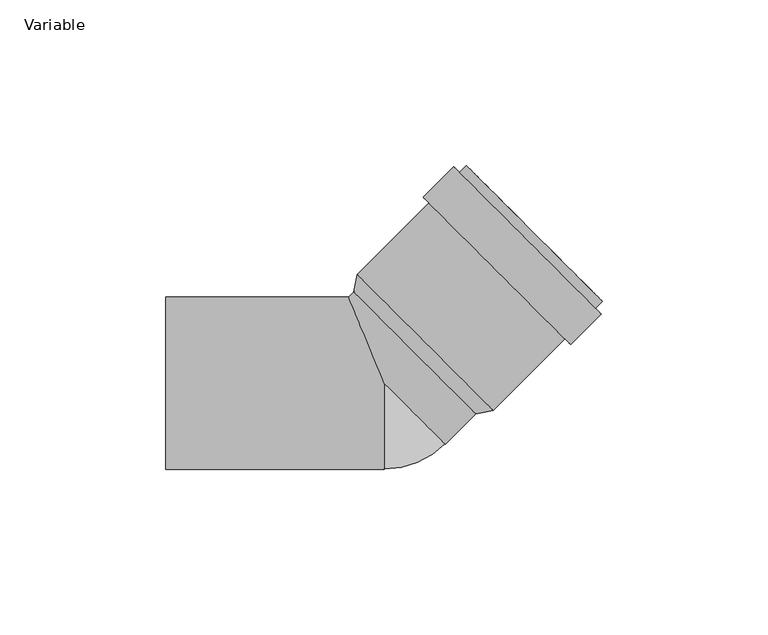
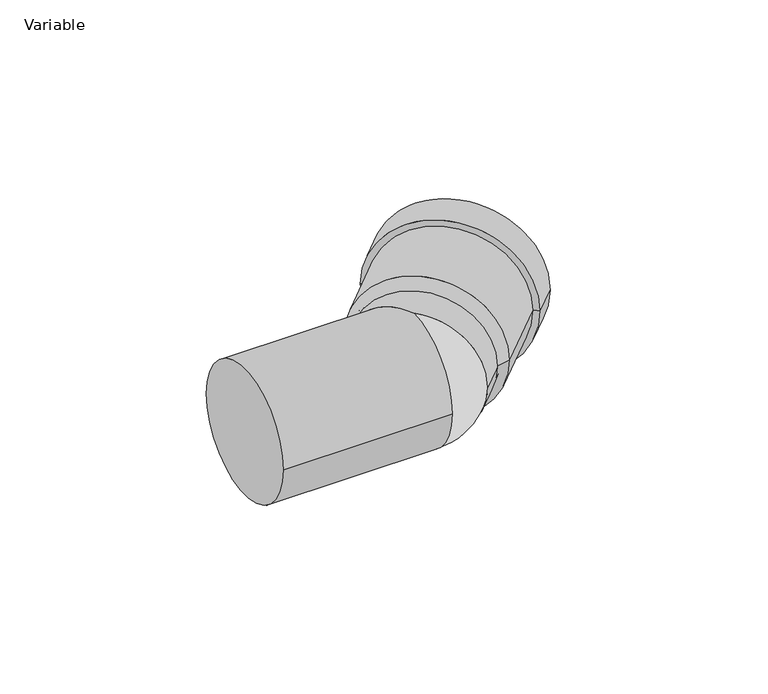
"""IFC4 building model written with IfcOpenShell, lengths in millimetres: pipe fitting geometry, AliaxisFR_Friaphon_ElbowMF_FR : Variable."""

from ifc_helpers import new_model, si_unit, point, frame, origin, place, context, project, spatial, polyline, circle_curve, ellipse_curve, trimmed, source, transform, mapped, element, save
from ifc_brep_helpers import plane_surface, cylinder_surface, revolved_surface, advanced_brep


def variable_70bd7cca(model_context):
    return source(origin(), model_context, "Body", "AdvancedBrep", [
        advanced_brep(
        [(65.7609307, 24.7487373, 0.0), (24.7487373, 65.7609307, 0.0), (26.8700577, 63.6396103, 0.0), (63.6396103, 26.8700577, 0.0), (56.2149891, 11.6672619, 0.0), (11.6672619, 56.2149891, 0.0), (20.85965, 65.4073773, 0.0), (65.4073773, 20.85965, 0.0), (54.4472222, 13.4350288, 0.0), (13.4350288, 54.4472222, 0.0), (32.8804653, -8.131728, 0.0), (-8.131728, 32.8804653, 0.0), (-9.1923882, 27.5771645, 0.0), (27.5771645, -9.1923882, 0.0), (63.6396103, 22.627417, 0.0), (22.627417, 63.6396103, 0.0)],
        [
            (0, 1, circle_curve(frame((45.254834, 45.254834, 0.0), z_axis=(0.707106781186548, 0.7071067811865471, 0.0), x_axis=(-0.7071067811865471, 0.707106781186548, 0.0)), 29.0)),
            (1, 2),
            (2, 3, circle_curve(frame((45.254834, 45.254834, 0.0), z_axis=(-0.707106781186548, -0.7071067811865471, 0.0), x_axis=(-0.7071067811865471, 0.707106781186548, 0.0)), 26.0)),
            (3, 0),
            (1, 0, circle_curve(frame((45.254834, 45.254834, 0.0), z_axis=(0.707106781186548, 0.7071067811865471, 0.0), x_axis=(-0.7071067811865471, 0.707106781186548, 0.0)), 29.0)),
            (3, 2, circle_curve(frame((45.254834, 45.254834, 0.0), z_axis=(-0.707106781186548, -0.7071067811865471, 0.0), x_axis=(-0.7071067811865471, 0.707106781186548, 0.0)), 26.0)),
            (4, 5, circle_curve(frame((33.9411255, 33.9411255, 0.0), z_axis=(0.707106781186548, 0.7071067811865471, 0.0), x_axis=(-0.7071067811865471, 0.707106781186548, 0.0)), 31.5)),
            (5, 6),
            (6, 7, circle_curve(frame((43.1335137, 43.1335137, 0.0), z_axis=(-0.707106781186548, -0.7071067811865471, 0.0), x_axis=(-0.7071067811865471, 0.707106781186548, 0.0)), 31.5)),
            (7, 4),
            (5, 4, circle_curve(frame((33.9411255, 33.9411255, 0.0), z_axis=(0.707106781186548, 0.7071067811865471, 0.0), x_axis=(-0.7071067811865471, 0.707106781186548, 0.0)), 31.5)),
            (7, 6, circle_curve(frame((43.1335137, 43.1335137, 0.0), z_axis=(-0.707106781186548, -0.7071067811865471, 0.0), x_axis=(-0.7071067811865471, 0.707106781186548, 0.0)), 31.5)),
            (8, 9, circle_curve(frame((33.9411255, 33.9411255, 0.0), z_axis=(0.707106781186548, 0.7071067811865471, 0.0), x_axis=(-0.7071067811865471, 0.707106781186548, 0.0)), 29.0)),
            (9, 5),
            (4, 8),
            (9, 8, circle_curve(frame((33.9411255, 33.9411255, 0.0), z_axis=(0.707106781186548, 0.7071067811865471, 0.0), x_axis=(-0.7071067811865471, 0.707106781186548, 0.0)), 29.0)),
            (10, 11, circle_curve(frame((12.3743687, 12.3743687, 0.0), z_axis=(0.707106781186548, 0.7071067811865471, 0.0), x_axis=(-0.7071067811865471, 0.707106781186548, 0.0)), 29.0)),
            (11, 9),
            (8, 10),
            (11, 10, circle_curve(frame((12.3743687, 12.3743687, 0.0), z_axis=(0.707106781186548, 0.7071067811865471, 0.0), x_axis=(-0.7071067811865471, 0.707106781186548, 0.0)), 29.0)),
            (2, 12),
            (12, 13, circle_curve(frame((9.1923882, 9.1923882, 0.0), z_axis=(-0.707106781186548, -0.7071067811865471, 0.0), x_axis=(-0.7071067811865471, 0.707106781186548, 0.0)), 26.0)),
            (13, 3),
            (13, 12, circle_curve(frame((9.1923882, 9.1923882, 0.0), z_axis=(-0.707106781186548, -0.7071067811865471, 0.0), x_axis=(-0.7071067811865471, 0.707106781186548, 0.0)), 26.0)),
            (12, 11),
            (10, 13),
            (14, 15, circle_curve(frame((43.1335137, 43.1335137, 0.0), z_axis=(0.707106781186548, 0.7071067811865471, 0.0), x_axis=(-0.7071067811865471, 0.707106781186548, 0.0)), 29.0)),
            (15, 1),
            (0, 14),
            (15, 14, circle_curve(frame((43.1335137, 43.1335137, 0.0), z_axis=(0.707106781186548, 0.7071067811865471, 0.0), x_axis=(-0.7071067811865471, 0.707106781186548, 0.0)), 29.0)),
            (6, 15),
            (14, 7),
        ],
        [
            plane_surface(frame((45.254834, 45.254834, 0.0), z_axis=(0.707106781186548, 0.7071067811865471, 0.0), x_axis=(-0.7071067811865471, 0.707106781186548, 0.0))),
            cylinder_surface(frame((9.1923882, 9.1923882, 0.0), z_axis=(-0.707106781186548, -0.7071067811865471, 0.0), x_axis=(-0.7071067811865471, 0.707106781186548, 0.0)), 31.5),
            plane_surface(frame((33.9411255, 33.9411255, 0.0), z_axis=(-0.707106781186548, -0.7071067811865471, 0.0), x_axis=(-0.7071067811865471, 0.707106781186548, 0.0))),
            cylinder_surface(frame((9.1923882, 9.1923882, 0.0), z_axis=(-0.707106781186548, -0.7071067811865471, 0.0), x_axis=(-0.7071067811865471, 0.707106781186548, 0.0)), 29.0),
            revolved_surface(polyline([(-9.192388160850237, 27.577164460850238, 0.0), (26.870057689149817, 63.639610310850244, 0.0)]), (9.1923882, 9.1923882, 0.0), (-0.707106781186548, -0.7071067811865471, 0.0)),
            revolved_surface(polyline([(-8.131728, 32.8804653, 0.0), (-9.1923882, 27.5771645, 0.0)]), (9.1923882, 9.1923882, 0.0), (-0.707106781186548, -0.7071067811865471, 0.0)),
            plane_surface(frame((43.1335137, 43.1335137, 0.0), z_axis=(0.707106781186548, 0.7071067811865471, 0.0), x_axis=(-0.7071067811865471, 0.707106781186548, 0.0))),
        ],
        [
            (0, [[1, 2, 3, 4]]),
            (0, [[5, -4, 6, -2]]),
            (1, [[7, 8, 9, 10]]),
            (1, [[11, -10, 12, -8]]),
            (2, [[13, 14, -7, 15]]),
            (2, [[16, -15, -11, -14]]),
            (3, [[17, 18, -13, 19]]),
            (3, [[20, -19, -16, -18]]),
            (4, [[-3, 21, 22, 23]]),
            (4, [[-6, -23, 24, -21]]),
            (5, [[-22, 25, -17, 26]]),
            (5, [[-24, -26, -20, -25]]),
            (3, [[27, 28, -1, 29]]),
            (3, [[30, -29, -5, -28]]),
            (6, [[-9, 31, -27, 32]]),
            (6, [[-12, -32, -30, -31]]),
        ],
    ),
        advanced_brep(
        [(-7.0710678, 29.6984848, 0.0), (29.6984848, -7.0710678, 0.0), (18.3847763, -18.3847763, 0.0), (-10.7695526, 26.0, 0.0), (0.0, 0.0, 26.0), (0.0, 0.0, -26.0), (-66.0, -26.0, 0.0), (-66.0, 26.0, 0.0), (0.0, -26.0, 0.0)],
        [
            (0, 1, circle_curve(frame((11.3137085, 11.3137085, 0.0), z_axis=(0.7071067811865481, 0.707106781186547, 0.0), x_axis=(-0.707106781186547, 0.7071067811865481, 0.0)), 26.0)),
            (1, 0, circle_curve(frame((11.3137085, 11.3137085, 0.0), z_axis=(0.7071067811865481, 0.707106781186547, 0.0), x_axis=(-0.707106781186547, 0.7071067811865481, 0.0)), 26.0)),
            (2, 1),
            (0, 3),
            (3, 4, ellipse_curve(frame((0.0, 0.0, 0.0), z_axis=(0.923879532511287, 0.38268343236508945, 0.0), x_axis=(0.38268343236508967, -0.923879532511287, 0.0)), 28.1421972, 26.0)),
            (4, 2, circle_curve(frame((0.0, 0.0, 0.0), z_axis=(0.7071067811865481, 0.707106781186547, 0.0), x_axis=(-0.707106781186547, 0.7071067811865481, 0.0)), 26.0)),
            (2, 5, circle_curve(frame((0.0, 0.0, 0.0), z_axis=(0.7071067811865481, 0.707106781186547, 0.0), x_axis=(-0.707106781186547, 0.7071067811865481, 0.0)), 26.0)),
            (5, 3, ellipse_curve(frame((0.0, 0.0, 0.0), z_axis=(0.923879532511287, 0.38268343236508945, 0.0), x_axis=(0.38268343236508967, -0.923879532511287, 0.0)), 28.1421972, 26.0)),
            (6, 7, circle_curve(frame((-66.0, 0.0, 0.0), z_axis=(-1.0, 0.0, 0.0), x_axis=(0.0, 1.0, 0.0)), 26.0)),
            (7, 6, circle_curve(frame((-66.0, 0.0, 0.0), z_axis=(-1.0, 0.0, 0.0), x_axis=(0.0, 1.0, 0.0)), 26.0)),
            (6, 8),
            (8, 4, circle_curve(frame((0.0, 0.0, 0.0), z_axis=(-1.0, 0.0, 0.0), x_axis=(0.0, 1.0, 0.0)), 26.0)),
            (3, 7),
            (5, 8, circle_curve(frame((0.0, 0.0, 0.0), z_axis=(-1.0, 0.0, 0.0), x_axis=(0.0, 1.0, 0.0)), 26.0)),
        ],
        [
            plane_surface(frame((11.3137085, 11.3137085, 0.0), z_axis=(0.7071067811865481, 0.707106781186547, 0.0), x_axis=(0.0, 0.0, 1.0))),
            cylinder_surface(frame((0.0, 0.0, 0.0), z_axis=(-0.7071067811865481, -0.707106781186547, 0.0), x_axis=(-0.707106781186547, 0.7071067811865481, 0.0)), 26.0),
            plane_surface(frame((-66.0, 0.0, 0.0), z_axis=(-1.0, 0.0, 0.0), x_axis=(0.0, 0.0, 1.0))),
            cylinder_surface(frame((-66.0, 0.0, 0.0), z_axis=(-1.0, 0.0, 0.0), x_axis=(0.0, 1.0, 0.0)), 26.0),
            revolved_surface(trimmed(ellipse_curve(frame((0.0, 0.0, 0.0), z_axis=(0.7071067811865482, 0.707106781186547, 0.0), x_axis=(-0.707106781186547, 0.7071067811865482, 0.0)), 26.0, 26.0), [point((0.0, 0.0, 26.0))], [point((0.0, 0.0, -26.0))], True, "CARTESIAN"), (0.0, 0.0, 26.0), (0.0, 0.0, -1.0)),
        ],
        [
            (0, [[1, 2]]),
            (1, [[3, -1, 4, 5, 6]]),
            (1, [[-2, -3, 7, 8, -4]]),
            (2, [[9, 10]]),
            (3, [[-9, 11, 12, -5, 13]]),
            (3, [[-10, -13, -8, 14, -11]]),
            (4, [[-12, -14, -7, -6]]),
        ],
    ),
    ])


if __name__ == "__main__":
    model = new_model("IFC4")
    model_context = context("Model", 3, world=origin())
    ifc_project = project(units=[si_unit("LENGTHUNIT", "METRE", prefix="MILLI")], contexts=[model_context])
    site = spatial("IfcSite", under=ifc_project)
    building = spatial("IfcBuilding", under=site)
    placement = place(None, origin())
    variable_shape = variable_70bd7cca(model_context)
    element("IfcPipeFitting", 1, ObjectType="AliaxisFR_Friaphon_ElbowMF_FR : Variable", at=placement, inside=building, context=model_context, shape_type="MappedRepresentation", body=[
        mapped(variable_shape, transform((0.0, 0.0, 0.0), x_axis=(1.0, 0.0, 0.0), y_axis=(0.0, 1.0, 0.0), z_axis=(0.0, 0.0, 1.0))),
    ])
    save(model, "model.ifc")
